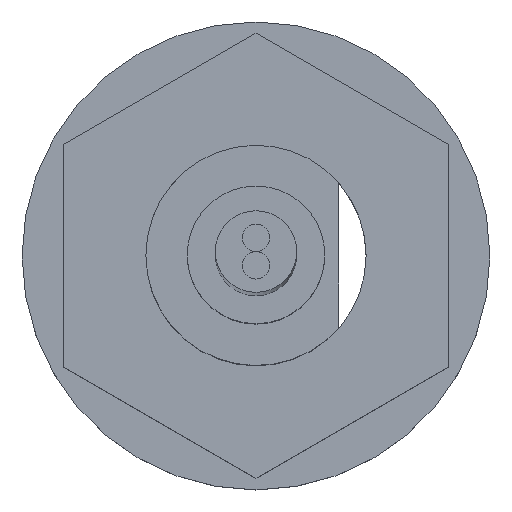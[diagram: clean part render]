
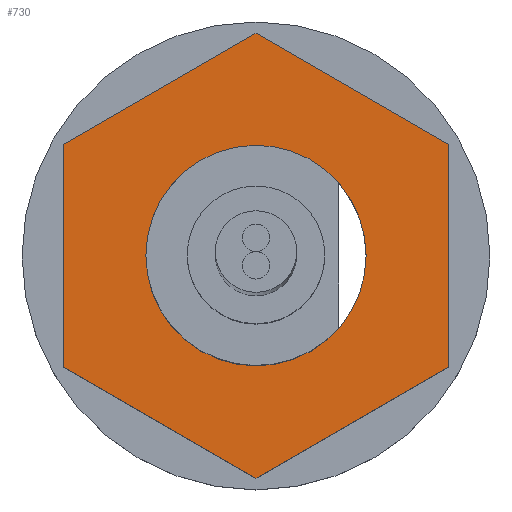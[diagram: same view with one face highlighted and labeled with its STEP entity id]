
A CAD part, top view. The second image highlights one B-rep face of the part: STEP entity #730.
In plain terms, the highlighted planar face has unit normal (0, 0, 1) as drawn and (-1, 0, 0) by its records, which use the part's own axes.
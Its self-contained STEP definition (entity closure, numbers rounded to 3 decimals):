
#402 = EDGE_LOOP ( 'NONE', ( #419, #420 ) ) ;
#419 = ORIENTED_EDGE ( 'NONE', *, *, #738, .F. ) ;
#420 = ORIENTED_EDGE ( 'NONE', *, *, #426, .F. ) ;
#426 = EDGE_CURVE ( 'NONE', #740, #739, #924, .T. ) ;
#706 = ORIENTED_EDGE ( 'NONE', *, *, #708, .T. ) ;
#707 = VERTEX_POINT ( 'NONE', #966 ) ;
#708 = EDGE_CURVE ( 'NONE', #710, #707, #965, .T. ) ;
#709 = EDGE_CURVE ( 'NONE', #722, #710, #1010, .T. ) ;
#710 = VERTEX_POINT ( 'NONE', #1006 ) ;
#711 = ORIENTED_EDGE ( 'NONE', *, *, #712, .T. ) ;
#712 = EDGE_CURVE ( 'NONE', #707, #713, #1005, .T. ) ;
#713 = VERTEX_POINT ( 'NONE', #1001 ) ;
#714 = ORIENTED_EDGE ( 'NONE', *, *, #715, .T. ) ;
#715 = EDGE_CURVE ( 'NONE', #713, #716, #1000, .T. ) ;
#716 = VERTEX_POINT ( 'NONE', #996 ) ;
#717 = ORIENTED_EDGE ( 'NONE', *, *, #718, .T. ) ;
#718 = EDGE_CURVE ( 'NONE', #716, #721, #1050, .T. ) ;
#719 = ORIENTED_EDGE ( 'NONE', *, *, #709, .T. ) ;
#720 = EDGE_CURVE ( 'NONE', #721, #722, #1046, .T. ) ;
#721 = VERTEX_POINT ( 'NONE', #1042 ) ;
#722 = VERTEX_POINT ( 'NONE', #1041 ) ;
#730 = ADVANCED_FACE ( 'NONE', ( #1153, #1152 ), #1150, .T. ) ;
#731 = EDGE_LOOP ( 'NONE', ( #732, #719, #706, #711, #714, #717 ) ) ;
#732 = ORIENTED_EDGE ( 'NONE', *, *, #720, .T. ) ;
#738 = EDGE_CURVE ( 'NONE', #739, #740, #1139, .T. ) ;
#739 = VERTEX_POINT ( 'NONE', #1135 ) ;
#740 = VERTEX_POINT ( 'NONE', #1134 ) ;
#872 = DIRECTION ( 'NONE',  ( 0., -1., 0. ) ) ;
#873 = DIRECTION ( 'NONE',  ( -1., 0., 0. ) ) ;
#922 = CARTESIAN_POINT ( 'NONE',  ( -2.4, 0., 0. ) ) ;
#923 = AXIS2_PLACEMENT_3D ( 'NONE', #922, #873, #872 ) ;
#924 = CIRCLE ( 'NONE', #923, 2. ) ;
#963 = VECTOR ( 'NONE', #1011, 1000. ) ;
#964 = CARTESIAN_POINT ( 'NONE',  ( -2.4, 2.021, -3.5 ) ) ;
#965 = LINE ( 'NONE', #964, #963 ) ;
#966 = CARTESIAN_POINT ( 'NONE',  ( -2.4, -2.021, -3.5 ) ) ;
#996 = CARTESIAN_POINT ( 'NONE',  ( -2.4, -2.021, 3.5 ) ) ;
#997 = DIRECTION ( 'NONE',  ( 0., 0.5, 0.866 ) ) ;
#998 = VECTOR ( 'NONE', #997, 1000. ) ;
#999 = CARTESIAN_POINT ( 'NONE',  ( -2.4, -4.041, 0. ) ) ;
#1000 = LINE ( 'NONE', #999, #998 ) ;
#1001 = CARTESIAN_POINT ( 'NONE',  ( -2.4, -4.041, 0. ) ) ;
#1002 = DIRECTION ( 'NONE',  ( 0., -0.5, 0.866 ) ) ;
#1003 = VECTOR ( 'NONE', #1002, 1000. ) ;
#1004 = CARTESIAN_POINT ( 'NONE',  ( -2.4, -2.021, -3.5 ) ) ;
#1005 = LINE ( 'NONE', #1004, #1003 ) ;
#1006 = CARTESIAN_POINT ( 'NONE',  ( -2.4, 2.021, -3.5 ) ) ;
#1007 = DIRECTION ( 'NONE',  ( 0., -0.5, -0.866 ) ) ;
#1008 = VECTOR ( 'NONE', #1007, 1000. ) ;
#1009 = CARTESIAN_POINT ( 'NONE',  ( -2.4, 4.041, 0. ) ) ;
#1010 = LINE ( 'NONE', #1009, #1008 ) ;
#1011 = DIRECTION ( 'NONE',  ( 0., -1., 0. ) ) ;
#1041 = CARTESIAN_POINT ( 'NONE',  ( -2.4, 4.041, 0. ) ) ;
#1042 = CARTESIAN_POINT ( 'NONE',  ( -2.4, 2.021, 3.5 ) ) ;
#1043 = DIRECTION ( 'NONE',  ( 0., 0.5, -0.866 ) ) ;
#1044 = VECTOR ( 'NONE', #1043, 1000. ) ;
#1045 = CARTESIAN_POINT ( 'NONE',  ( -2.4, 2.021, 3.5 ) ) ;
#1046 = LINE ( 'NONE', #1045, #1044 ) ;
#1047 = DIRECTION ( 'NONE',  ( 0., 1., 0. ) ) ;
#1048 = VECTOR ( 'NONE', #1047, 1000. ) ;
#1049 = CARTESIAN_POINT ( 'NONE',  ( -2.4, -2.021, 3.5 ) ) ;
#1050 = LINE ( 'NONE', #1049, #1048 ) ;
#1134 = CARTESIAN_POINT ( 'NONE',  ( -2.4, -2., 0. ) ) ;
#1135 = CARTESIAN_POINT ( 'NONE',  ( -2.4, 2., 0. ) ) ;
#1136 = DIRECTION ( 'NONE',  ( 0., -1., 0. ) ) ;
#1137 = DIRECTION ( 'NONE',  ( -1., 0., 0. ) ) ;
#1138 = AXIS2_PLACEMENT_3D ( 'NONE', #1144, #1137, #1136 ) ;
#1139 = CIRCLE ( 'NONE', #1138, 2. ) ;
#1144 = CARTESIAN_POINT ( 'NONE',  ( -2.4, 0., 0. ) ) ;
#1146 = DIRECTION ( 'NONE',  ( 0., -1., 0. ) ) ;
#1147 = DIRECTION ( 'NONE',  ( -1., 0., 0. ) ) ;
#1148 = CARTESIAN_POINT ( 'NONE',  ( -2.4, 4.041, 0. ) ) ;
#1149 = AXIS2_PLACEMENT_3D ( 'NONE', #1148, #1147, #1146 ) ;
#1150 = PLANE ( 'NONE',  #1149 ) ;
#1152 = FACE_BOUND ( 'NONE', #402, .T. ) ;
#1153 = FACE_OUTER_BOUND ( 'NONE', #731, .T. ) ;
